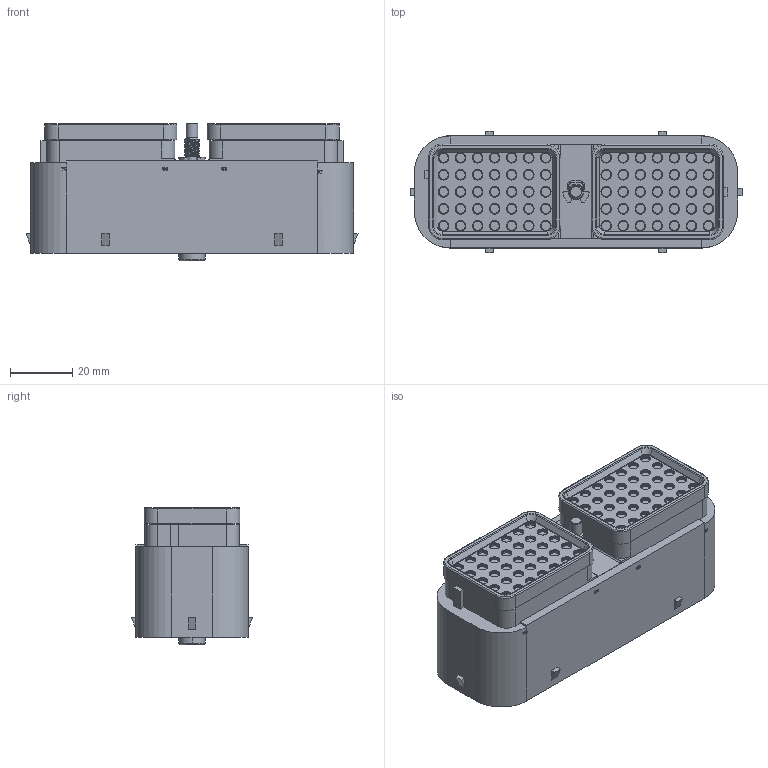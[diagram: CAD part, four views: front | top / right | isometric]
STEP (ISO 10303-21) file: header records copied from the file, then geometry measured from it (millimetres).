
FILE_DESCRIPTION((''),'2;1');
FILE_NAME('C-DRC16-70SCE-P013','2013-06-14T',('workeradm'),('Tyco Electronics Ltd.'),'PRO/ENGINEER BY PARAMETRIC TECHNOLOGY CORPORATION, 2011490','PRO/ENGINEER BY PARAMETRIC TECHNOLOGY CORPORATION, 2011490','');
FILE_SCHEMA(('AUTOMOTIVE_DESIGN { 1 0 10303 214 1 1 1 1 }'));
Products named in the file (1): C-DRC16-70SCE-P013
Bounding box: 106.88 x 38.99 x 44.32 mm (x, y, z)
Volume: 131432.1 mm3; surface area: 21902.9 mm2
Topology: 1 solids, 1 shells, 1928 faces, 4459 edges, 2789 vertices
Faces by surface type: plane 802, cylinder 799, cone 150, bspline 149, torus 28
Entity records: 59486 total; most frequent: CARTESIAN_POINT 14694, DIRECTION 9818, ORIENTED_EDGE 8822, EDGE_CURVE 4411, AXIS2_PLACEMENT_3D 3739, VERTEX_POINT 2765, VECTOR 2340, LINE 2340
